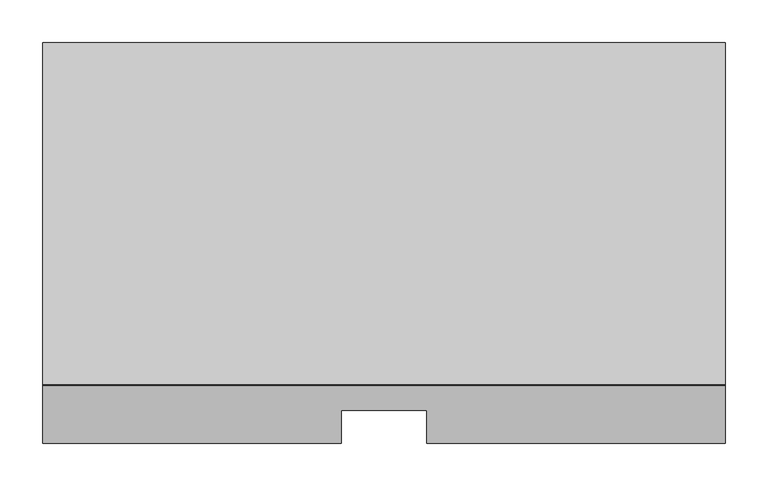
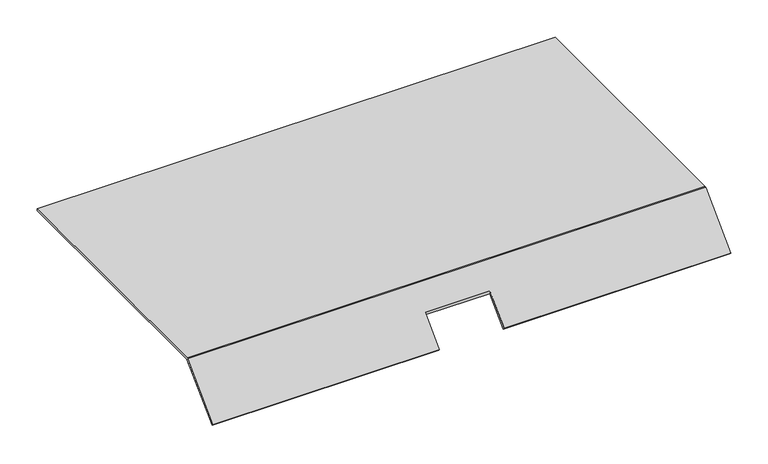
"""IFC4 building model written with IfcOpenShell, lengths in millimetres: proxy geometry, Electrical_Installation_Hager_Connection-Single-Sided : Electrical_Installation_Hager_Connection-Single-Sided."""

from ifc_helpers import new_model, si_unit, frame, origin, place, context, project, spatial, circle_curve, source, transform, mapped, element, save
from ifc_brep_helpers import plane_surface, cylinder_surface, advanced_brep


def electrical_fixtures_901f275d(model_context):
    return source(origin(), model_context, "Body", "AdvancedBrep", [
        advanced_brep(
        [(800.0, 200.0, 37.5), (800.0, 200.0, 40.5), (800.0, -200.7845905, 40.5), (800.0, -202.5756976, 39.4652721), (800.0, -269.7368955, -27.6959259), (800.0, -267.6155751, -29.8172462), (800.0, -200.2983289, 37.5), (0.0, 200.0, 37.5), (0.0, -200.2983289, 37.5), (0.0, -267.6155751, -29.8172462), (0.0, -269.7368955, -27.6959259), (0.0, -202.5756976, 39.4652721), (0.0, -200.7845905, 40.5), (0.0, 200.0, 40.5), (350.0, -269.7368955, -27.6959259), (350.0, -231.5213203, 10.5196493), (450.0, -231.5213203, 10.5196493), (450.0, -269.7368955, -27.6959259), (450.0, -267.6155751, -29.8172462), (350.0, -267.6155751, -29.8172462), (450.0, -231.5213203, 6.2770086), (350.0, -231.5213203, 6.2770086)],
        [
            (0, 1),
            (1, 2),
            (2, 3, circle_curve(frame((800.0, -199.7472704, 36.6368449), z_axis=(1.0, 0.0, 0.0), x_axis=(0.0, 1.0, 0.0)), 4.0)),
            (3, 4),
            (4, 5),
            (5, 6),
            (6, 0),
            (7, 8),
            (8, 9),
            (9, 10),
            (10, 11),
            (11, 12, circle_curve(frame((0.0, -199.7472704, 36.6368449), z_axis=(-1.0, 0.0, 0.0), x_axis=(0.0, 1.0, 0.0)), 4.0)),
            (12, 13),
            (13, 7),
            (0, 7),
            (13, 1),
            (12, 2),
            (3, 11),
            (10, 14),
            (14, 15),
            (15, 16),
            (16, 17),
            (17, 4),
            (17, 18),
            (18, 5),
            (9, 19),
            (19, 14),
            (18, 20),
            (20, 21),
            (21, 19),
            (8, 6),
            (20, 16),
            (15, 21),
        ],
        [
            plane_surface(frame((800.0, 200.0, 40.5), z_axis=(1.0, 0.0, 0.0), x_axis=(0.0, 0.0, 1.0))),
            plane_surface(frame((0.0, 200.0, 40.5), z_axis=(-1.0, 0.0, 0.0), x_axis=(0.0, 0.0, -1.0))),
            plane_surface(frame((800.0, 200.0, 37.5), z_axis=(0.0, 1.0, 0.0), x_axis=(-1.0, 0.0, 0.0))),
            plane_surface(frame((800.0, 200.0, 40.5), z_axis=(0.0, 0.0, 1.0), x_axis=(-1.0, 0.0, 0.0))),
            plane_surface(frame((800.0, -202.5756976, 39.4652721), z_axis=(0.0, -0.7071067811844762, 0.7071067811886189), x_axis=(-1.0, 0.0, 0.0))),
            plane_surface(frame((800.0, -269.7368955, -27.6959259), z_axis=(0.0, -0.7071067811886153, -0.7071067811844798), x_axis=(-1.0, 0.0, 0.0))),
            plane_surface(frame((800.0, -267.6155751, -29.8172462), z_axis=(0.0, 0.7071067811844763, -0.7071067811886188), x_axis=(-1.0, 0.0, 0.0))),
            plane_surface(frame((800.0, -200.2983289, 37.5), z_axis=(0.0, 0.0, -1.0), x_axis=(-1.0, 0.0, 0.0))),
            plane_surface(frame((450.0, -231.5213203, 250.0), z_axis=(0.0, -1.0, 0.0), x_axis=(0.0, 0.0, -1.0))),
            plane_surface(frame((350.0, -231.5213203, 250.0), z_axis=(1.0, 0.0, 0.0), x_axis=(0.0, 0.0, -1.0))),
            plane_surface(frame((450.0, -326.2152728, 250.0), z_axis=(-1.0, 0.0, 0.0), x_axis=(0.0, 0.0, -1.0))),
            cylinder_surface(frame((0.0, -199.7472704, 36.6368449), z_axis=(1.0, 0.0, 0.0), x_axis=(0.0, 1.0, 0.0)), 4.0),
        ],
        [
            (0, [[1, 2, 3, 4, 5, 6, 7]]),
            (1, [[8, 9, 10, 11, 12, 13, 14]]),
            (2, [[-1, 15, -14, 16]]),
            (3, [[-2, -16, -13, 17]]),
            (4, [[-4, 18, -11, 19, 20, 21, 22, 23]]),
            (5, [[-5, -23, 24, 25]]),
            (5, [[-10, 26, 27, -19]]),
            (6, [[-6, -25, 28, 29, 30, -26, -9, 31]]),
            (7, [[-7, -31, -8, -15]]),
            (8, [[32, -21, 33, -29]]),
            (9, [[-33, -20, -27, -30]]),
            (10, [[-32, -28, -24, -22]]),
            (11, [[-3, -17, -12, -18]]),
        ],
    ),
    ])


if __name__ == "__main__":
    model = new_model("IFC4")
    model_context = context("Model", 3, world=origin())
    ifc_project = project(units=[si_unit("LENGTHUNIT", "METRE", prefix="MILLI")], contexts=[model_context])
    site = spatial("IfcSite", under=ifc_project)
    building = spatial("IfcBuilding", under=site)
    placement = place(None, origin())
    electrical_fixtures_shape = electrical_fixtures_901f275d(model_context)
    element("IfcBuildingElementProxy", 1, Name="Electrical_Installation_Hager_Connection-Single-Sided : Electrical_Installation_Hager_Connection-Single-Sided", ObjectType="Electrical_Installation_Hager_Connection-Single-Sided : Electrical_Installation_Hager_Connection-Single-Sided", at=placement, inside=building, context=model_context, shape_type="MappedRepresentation", body=[
        mapped(electrical_fixtures_shape, transform((0.0, 0.0, 0.0), x_axis=(1.0, 0.0, 0.0), y_axis=(0.0, 1.0, 0.0), z_axis=(0.0, 0.0, 1.0))),
    ])
    save(model, "model.ifc")
